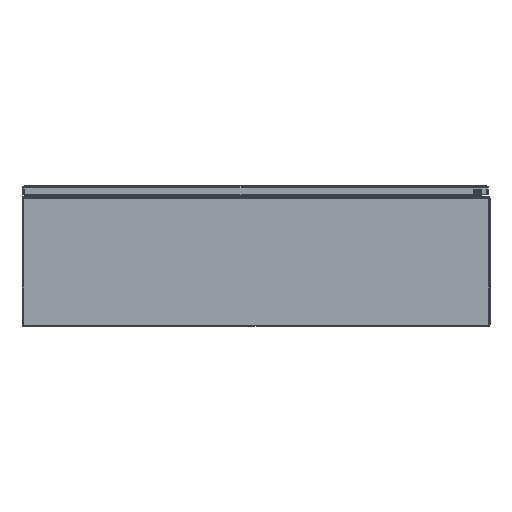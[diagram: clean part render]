
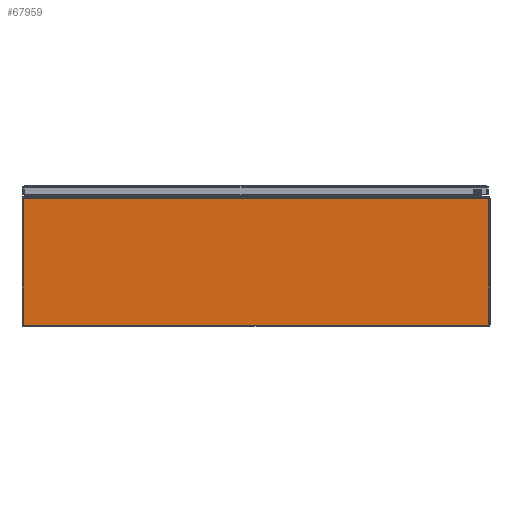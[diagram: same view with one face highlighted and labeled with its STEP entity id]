
A CAD part, front view. The second image highlights one B-rep face of the part: STEP entity #67959.
In plain terms, the highlighted planar face has unit normal (0, -1, 0).
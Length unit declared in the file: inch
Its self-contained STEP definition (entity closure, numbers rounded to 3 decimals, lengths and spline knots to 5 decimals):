
#247 = VECTOR ( 'NONE', #81503, 39.37008 ) ;
#249 = VECTOR ( 'NONE', #81472, 39.37008 ) ;
#251 = VECTOR ( 'NONE', #81521, 39.37008 ) ;
#252 = LINE ( 'NONE', #81465, #249 ) ;
#253 = LINE ( 'NONE', #81477, #256 ) ;
#254 = LINE ( 'NONE', #81497, #247 ) ;
#255 = LINE ( 'NONE', #81514, #251 ) ;
#256 = VECTOR ( 'NONE', #81512, 39.37008 ) ;
#1700 = VERTEX_POINT ( 'NONE', #27291 ) ;
#1702 = VERTEX_POINT ( 'NONE', #27292 ) ;
#1704 = VERTEX_POINT ( 'NONE', #27293 ) ;
#1705 = VERTEX_POINT ( 'NONE', #27294 ) ;
#21908 = EDGE_CURVE ( 'NONE', #1700, #1702, #252, .T. ) ;
#21912 = EDGE_CURVE ( 'NONE', #1700, #1704, #254, .T. ) ;
#21914 = EDGE_CURVE ( 'NONE', #1704, #1705, #253, .T. ) ;
#21917 = EDGE_CURVE ( 'NONE', #1702, #1705, #255, .T. ) ;
#27291 = CARTESIAN_POINT ( 'NONE',  ( 17.921, 0., 9.838 ) ) ;
#27292 = CARTESIAN_POINT ( 'NONE',  ( -17.921, 0., 9.838 ) ) ;
#27293 = CARTESIAN_POINT ( 'NONE',  ( 17.921, 0., 0.08 ) ) ;
#27294 = CARTESIAN_POINT ( 'NONE',  ( -17.921, 0., 0.08 ) ) ;
#30435 = ORIENTED_EDGE ( 'NONE', *, *, #21914, .F. ) ;
#30436 = ORIENTED_EDGE ( 'NONE', *, *, #21912, .F. ) ;
#30437 = ORIENTED_EDGE ( 'NONE', *, *, #21908, .T. ) ;
#30438 = ORIENTED_EDGE ( 'NONE', *, *, #21917, .T. ) ;
#46638 = FACE_OUTER_BOUND ( 'NONE', #83460, .T. ) ;
#56025 = AXIS2_PLACEMENT_3D ( 'NONE', #57244, #57254, #57256 ) ;
#57244 = CARTESIAN_POINT ( 'NONE',  ( 18., 0., 0.08 ) ) ;
#57248 = PLANE ( 'NONE',  #56025 ) ;
#57254 = DIRECTION ( 'NONE',  ( 0., -1., 0. ) ) ;
#57256 = DIRECTION ( 'NONE',  ( 0., 0., -1. ) ) ;
#67959 = ADVANCED_FACE ( 'NONE', ( #46638 ), #57248, .T. ) ;
#81465 = CARTESIAN_POINT ( 'NONE',  ( 18., 0., 9.838 ) ) ;
#81472 = DIRECTION ( 'NONE',  ( -1., 0., 0. ) ) ;
#81477 = CARTESIAN_POINT ( 'NONE',  ( 18., 0., 0.08 ) ) ;
#81497 = CARTESIAN_POINT ( 'NONE',  ( 17.921, 0., 0.08 ) ) ;
#81503 = DIRECTION ( 'NONE',  ( 0., 0., -1. ) ) ;
#81512 = DIRECTION ( 'NONE',  ( -1., 0., 0. ) ) ;
#81514 = CARTESIAN_POINT ( 'NONE',  ( -17.921, 0., 10.569 ) ) ;
#81521 = DIRECTION ( 'NONE',  ( 0., 0., -1. ) ) ;
#83460 = EDGE_LOOP ( 'NONE', ( #30435, #30436, #30437, #30438 ) ) ;
